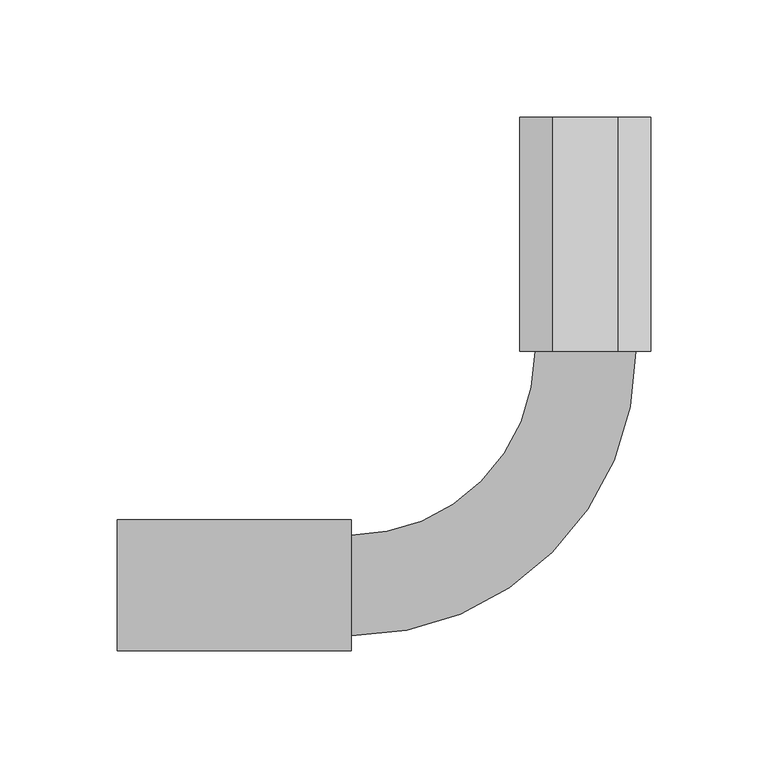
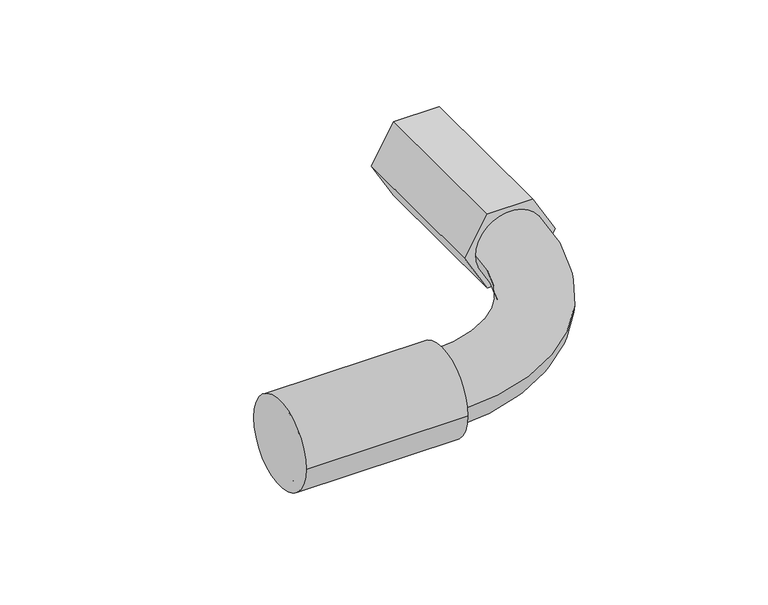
"""IFC4 building model written with IfcOpenShell, lengths in millimetres: cable carrier fitting geometry, Муфта_гибкая_труба-труба_IP44 : Муфта гибкая труба-труба D40мм."""

import ifcopenshell
import ifcopenshell.guid

model = None  # the IFC model being written
_history = None  # IfcOwnerHistory: only IFC2X3 demands one
_inside = {}  # id of a spatial element -> (the spatial element, [elements in it])
_under = {}  # id of a project, library or spatial element -> (it, [spatial elements below it])
_declared = {}  # id of a project -> (the project, [libraries it declares])
_typed = {}  # id of a type object -> (the type object, [elements of that type])
_made_of = {}  # id of a material, layer set ... -> (it, [elements and type objects made of it])


def new_model(schema):
    """Start an empty IFC model of exactly this schema.

    Asked for "IFC4X3", IfcOpenShell would pick the latest addendum, in which some entities
    have other attributes; the version numbers below select the first issue.
    IFC2X3 requires an IfcOwnerHistory on every rooted entity: one is made here for all.
    """
    global model, _history
    if schema == "IFC4X3":
        model = ifcopenshell.file(schema_version=(4, 3, 0, 0))
    else:
        model = ifcopenshell.file(schema=schema)
    _inside.clear()
    _under.clear()
    _declared.clear()
    _typed.clear()
    _made_of.clear()
    _history = None
    if model.schema == "IFC2X3":
        org = make("IfcOrganization", Name="unknown")
        user = make(
            "IfcPersonAndOrganization",
            ThePerson=make("IfcPerson", FamilyName="unknown"),
            TheOrganization=org,
        )
        app = make(
            "IfcApplication",
            ApplicationDeveloper=org,
            Version="unknown",
            ApplicationFullName="unknown",
            ApplicationIdentifier="unknown",
        )
        _history = make(
            "IfcOwnerHistory",
            OwningUser=user,
            OwningApplication=app,
            ChangeAction="ADDED",
            CreationDate=0,
        )
    return model


def make(cls, **values):
    """One entity of the class cls with the attributes given. An attribute that is None is left unset."""
    return model.create_entity(
        cls, **{name: value for name, value in values.items() if value is not None}
    )


def rooted(cls, **values):
    """An entity with a GlobalId (a new one), such as an element, a storey or a relation."""
    return make(cls, GlobalId=ifcopenshell.guid.new(), OwnerHistory=_history, **values)


def si_unit(unit_type, name, prefix=None):
    """IfcSIUnit, for example si_unit("LENGTHUNIT", "METRE", prefix="MILLI")."""
    return make("IfcSIUnit", UnitType=unit_type, Prefix=prefix, Name=name)


def assignment(units):
    """IfcUnitAssignment: the units of a project."""
    return None if units is None else make("IfcUnitAssignment", Units=units)


def point(xyz):
    """IfcCartesianPoint."""
    return None if xyz is None else make("IfcCartesianPoint", Coordinates=xyz)


def direction(xyz):
    """IfcDirection."""
    return None if xyz is None else make("IfcDirection", DirectionRatios=xyz)


def frame(location, z_axis=None, x_axis=None):
    """IfcAxis2Placement3D, a coordinate frame: its origin and axes. An axis left out is left unset."""
    return make(
        "IfcAxis2Placement3D",
        Location=point(location),
        Axis=direction(z_axis),
        RefDirection=direction(x_axis),
    )


def frame_2d(location, x_axis=None):
    """IfcAxis2Placement2D, a coordinate frame in the plane: its origin and x axis."""
    return make(
        "IfcAxis2Placement2D", Location=point(location), RefDirection=direction(x_axis)
    )


def origin():
    """The frame at (0, 0, 0) with its axes left unset."""
    return frame((0.0, 0.0, 0.0))


def origin_2d():
    """The frame at (0, 0) in the plane with its x axis left unset."""
    return frame_2d((0.0, 0.0))


def place(relative_to, where):
    """IfcLocalPlacement: puts the frame where relative to a parent placement (None: the world)."""
    return make(
        "IfcLocalPlacement", PlacementRelTo=relative_to, RelativePlacement=where
    )


def context(
    kind, dimensions, precision=None, world=None, true_north=None, identifier=None
):
    """IfcGeometricRepresentationContext, for example the 3D "Model" context."""
    return make(
        "IfcGeometricRepresentationContext",
        ContextIdentifier=identifier,
        ContextType=kind,
        CoordinateSpaceDimension=dimensions,
        Precision=precision,
        WorldCoordinateSystem=world,
        TrueNorth=true_north,
    )


def project(units=None, contexts=None):
    """IfcProject with its units and contexts."""
    return rooted(
        "IfcProject",
        Name="project",
        RepresentationContexts=contexts,
        UnitsInContext=assignment(units),
    )


def spatial(cls, under=None, at=None, **own):
    """A site, building, storey or space (cls), placed at a placement, below another one or the project."""
    s = rooted(cls, ObjectPlacement=at, **own)
    if under is not None:
        _under.setdefault(under.id(), (under, []))[1].append(s)
    return s


def polyline(points):
    """IfcPolyline through the points."""
    return make("IfcPolyline", Points=[point(p) for p in points])


def circle_curve(where, radius):
    """IfcCircle in the frame where."""
    return make("IfcCircle", Position=where, Radius=radius)


def ellipse_curve(where, semi_axis1, semi_axis2):
    """IfcEllipse in the frame where."""
    return make(
        "IfcEllipse", Position=where, SemiAxis1=semi_axis1, SemiAxis2=semi_axis2
    )


def trimmed(basis, trim1, trim2, sense, master):
    """IfcTrimmedCurve: the piece of a basis curve between two trims."""
    return make(
        "IfcTrimmedCurve",
        BasisCurve=basis,
        Trim1=trim1,
        Trim2=trim2,
        SenseAgreement=sense,
        MasterRepresentation=master,
    )


def segment(curve, same_sense, transition):
    """IfcCompositeCurveSegment."""
    return make(
        "IfcCompositeCurveSegment",
        Transition=transition,
        SameSense=same_sense,
        ParentCurve=curve,
    )


def composite_curve(segments, self_intersect=None):
    """IfcCompositeCurve: segments joined end to end."""
    return make("IfcCompositeCurve", Segments=segments, SelfIntersect=self_intersect)


def outline(outer, holes=None, kind="AREA"):
    """IfcArbitraryClosedProfileDef: a profile drawn as a closed curve; with holes, ...WithVoids."""
    if holes is None:
        return make("IfcArbitraryClosedProfileDef", ProfileType=kind, OuterCurve=outer)
    return make(
        "IfcArbitraryProfileDefWithVoids",
        ProfileType=kind,
        OuterCurve=outer,
        InnerCurves=holes,
    )


def extrude(swept, where, along, depth):
    """IfcExtrudedAreaSolid: the profile swept, set in the frame where, extruded along a direction by depth."""
    return make(
        "IfcExtrudedAreaSolid",
        SweptArea=swept,
        Position=where,
        ExtrudedDirection=direction(along),
        Depth=depth,
    )


def shape(context_of_items, identifier, shape_type, items):
    """IfcShapeRepresentation: the items that make up one representation, for example the "Body"."""
    return make(
        "IfcShapeRepresentation",
        ContextOfItems=context_of_items,
        RepresentationIdentifier=identifier,
        RepresentationType=shape_type,
        Items=items,
    )


def source(mapping_origin, context_of_items, identifier, shape_type, items):
    """IfcRepresentationMap: a shape defined once, which mapped items show again and again."""
    return make(
        "IfcRepresentationMap",
        MappingOrigin=mapping_origin,
        MappedRepresentation=shape(context_of_items, identifier, shape_type, items),
    )


def transform(
    local_origin,
    x_axis=None,
    y_axis=None,
    z_axis=None,
    scale=None,
    scale2=None,
    scale3=None,
    uniform=True,
):
    """IfcCartesianTransformationOperator3D, or its non-uniform kind. x_axis, y_axis, z_axis: its Axis1, 2, 3."""
    if uniform:
        return make(
            "IfcCartesianTransformationOperator3D",
            Axis1=direction(x_axis),
            Axis2=direction(y_axis),
            LocalOrigin=point(local_origin),
            Scale=scale,
            Axis3=direction(z_axis),
        )
    return make(
        "IfcCartesianTransformationOperator3DnonUniform",
        Axis1=direction(x_axis),
        Axis2=direction(y_axis),
        LocalOrigin=point(local_origin),
        Scale=scale,
        Axis3=direction(z_axis),
        Scale2=scale2,
        Scale3=scale3,
    )


def mapped(mapping_source, mapping_target):
    """IfcMappedItem: shows the shape of a source again, moved by a transform."""
    return make(
        "IfcMappedItem", MappingSource=mapping_source, MappingTarget=mapping_target
    )


def made_of(thing, what):
    """Note that an element or type object is made of a material, layer set ...; save() writes the relation."""
    if what is not None:
        _made_of.setdefault(what.id(), (what, []))[1].append(thing)
    return thing


def element(
    cls,
    number,
    at=None,
    inside=None,
    cuts=None,
    type_object=None,
    material=None,
    context=None,
    identifier="Body",
    shape_type=None,
    held_by="IfcProductDefinitionShape",
    body=None,
    shapes=None,
    **own,
):
    """One element of the class cls, such as IfcWall. Its Tag is "e" and its number.

    at: its placement. inside: the storey or other place that contains it. cuts: it is an
    opening in that element (IfcRelVoidsElement). A single representation is given by context,
    identifier, shape_type and body (its items); several are given by shapes. held_by: the class
    of the entity that holds the representations. save() writes the other relations.
    """
    e = rooted(cls, Tag="e%d" % number, ObjectPlacement=at, **own)
    if body is not None:
        shapes = [shape(context, identifier, shape_type, body)]
    if shapes is not None:
        e.Representation = make(held_by, Representations=shapes)
    if inside is not None:
        _inside.setdefault(inside.id(), (inside, []))[1].append(e)
    if cuts is not None:
        rooted(
            "IfcRelVoidsElement", RelatingBuildingElement=cuts, RelatedOpeningElement=e
        )
    if type_object is not None:
        _typed.setdefault(type_object.id(), (type_object, []))[1].append(e)
    return made_of(e, material)


def aggregate(whole, parts):
    """IfcRelAggregates: a whole, such as a stair, and the parts it consists of."""
    return rooted("IfcRelAggregates", RelatingObject=whole, RelatedObjects=parts)


def save(model, path):
    """Write the relations noted so far, then the file.

    IfcRelAggregates (storeys below a building ...), IfcRelContainedInSpatialStructure (elements
    in a storey), IfcRelDefinesByType, IfcRelAssociatesMaterial and IfcRelDeclares: one each for
    every whole, place, type object, material and project.
    """
    for whole, parts in _under.values():
        aggregate(whole, parts)
    for where, things in _inside.values():
        rooted(
            "IfcRelContainedInSpatialStructure",
            RelatedElements=things,
            RelatingStructure=where,
        )
    for kind, things in _typed.values():
        rooted("IfcRelDefinesByType", RelatedObjects=things, RelatingType=kind)
    for what, things in _made_of.values():
        rooted("IfcRelAssociatesMaterial", RelatedObjects=things, RelatingMaterial=what)
    for by, libraries in _declared.values():
        rooted("IfcRelDeclares", RelatingContext=by, RelatedDefinitions=libraries)
    model.write(path)


def plane_surface(at):
    """IfcPlane: the flat surface through the origin of the frame at, square to its z axis."""
    return make("IfcPlane", Position=at)


def cylinder_surface(at, radius):
    """IfcCylindricalSurface: all points at the distance radius from the z axis of the frame at."""
    return make("IfcCylindricalSurface", Position=at, Radius=radius)


def revolved_surface(curve, axis_point, axis_direction):
    """IfcSurfaceOfRevolution: the curve turned about the line through axis_point along axis_direction."""
    return make(
        "IfcSurfaceOfRevolution",
        SweptCurve=make("IfcArbitraryOpenProfileDef", ProfileType="CURVE", Curve=curve),
        AxisPosition=make("IfcAxis1Placement", Location=point(axis_point), Axis=direction(axis_direction)),
    )


def advanced_brep(points, edges, surfaces, faces):
    """IfcAdvancedBrep: a solid bounded by faces that lie on surfaces and meet in shared edges.

    An edge is (start, end): straight between two places in points (the first is 0);
    or (start, end, curve); or (start, end, curve, False) where it runs against its curve.
    A face is (place in surfaces, loops), or (place, loops, False) where it looks against
    its surface's normal. A loop lists edges by number (the first is 1), with a minus sign
    where the edge is run from its end to its start. The first loop is the outer one.
    """
    corners = [point(p) for p in points]
    vertices = [make("IfcVertexPoint", VertexGeometry=c) for c in corners]
    made = []
    for start, end, *more in edges:
        made.append(
            make(
                "IfcEdgeCurve",
                EdgeStart=vertices[start],
                EdgeEnd=vertices[end],
                EdgeGeometry=more[0] if more else make("IfcPolyline", Points=[corners[start], corners[end]]),
                SameSense=more[1] if len(more) > 1 else True,
            )
        )
    hull = []
    for where, loops, *sense in faces:
        bounds = []
        for j, loop in enumerate(loops):
            ring = [make("IfcOrientedEdge", EdgeElement=made[abs(k) - 1], Orientation=k > 0) for k in loop]
            bounds.append(
                make(
                    "IfcFaceOuterBound" if j == 0 else "IfcFaceBound",
                    Bound=make("IfcEdgeLoop", EdgeList=ring),
                    Orientation=True,
                )
            )
        hull.append(make("IfcAdvancedFace", Bounds=bounds, FaceSurface=surfaces[where], SameSense=sense[0] if sense else True))
    return make("IfcAdvancedBrep", Outer=make("IfcClosedShell", CfsFaces=hull))


def cable_carrier_fitting_3510dfeb(model_context):
    return source(origin(), model_context, "Body", "SolidModel", [
        extrude(outline(composite_curve([segment(trimmed(circle_curve(origin_2d(), 28.0), [point((-28.0, 0.0))], [point((28.0, 0.0))], False, "CARTESIAN"), True, "CONTINUOUS"), segment(trimmed(circle_curve(origin_2d(), 28.0), [point((28.0, 0.0))], [point((-28.0, 0.0))], False, "CARTESIAN"), True, "CONTINUOUS")], self_intersect=False)), frame((-200.0, 0.0, 0.0), z_axis=(1.0, 0.0, 0.0), x_axis=(0.0, 1.0, 0.0)), (0.0, 0.0, 1.0), 100.0),
        extrude(outline(polyline([(-24.2487113, 14.0), (0.0, 28.0), (24.2487113, 14.0), (24.2487113, -14.0), (0.0, -28.0), (-24.2487113, -14.0), (-24.2487113, 14.0)])), frame((0.0, 100.0, 0.0), z_axis=(0.0, 1.0, 0.0), x_axis=(0.0, 0.0, 1.0)), (0.0, 0.0, 1.0), 100.0),
        advanced_brep(
        [(-200.0, -21.5, 0.0), (-200.0, 21.5, 0.0), (-100.0, -21.5, 0.0), (-100.0, 21.5, 0.0), (-21.5, 100.0, 0.0), (21.5, 100.0, 0.0), (21.5, 200.0, 0.0), (-21.5, 200.0, 0.0)],
        [
            (0, 1, circle_curve(frame((-200.0, 0.0, 0.0), z_axis=(-1.0, 0.0, 0.0), x_axis=(0.0, 1.0, 0.0)), 21.5)),
            (1, 0, circle_curve(frame((-200.0, 0.0, 0.0), z_axis=(-1.0, 0.0, 0.0), x_axis=(0.0, 1.0, 0.0)), 21.5)),
            (0, 2),
            (2, 3, circle_curve(frame((-100.0, 0.0, 0.0), z_axis=(-1.0, 0.0, 0.0), x_axis=(0.0, 1.0, 0.0)), 21.5)),
            (3, 1),
            (3, 2, circle_curve(frame((-100.0, 0.0, 0.0), z_axis=(-1.0, 0.0, 0.0), x_axis=(0.0, 1.0, 0.0)), 21.5)),
            (4, 3, circle_curve(frame((-100.0, 100.0, 0.0), z_axis=(0.0, 0.0, -1.0), x_axis=(0.0, -1.0, 0.0)), 78.5)),
            (2, 5, circle_curve(frame((-100.0, 100.0, 0.0), z_axis=(0.0, 0.0, 1.0), x_axis=(0.0, -1.0, 0.0)), 121.5)),
            (5, 4, circle_curve(frame((0.0, 100.0, 0.0), z_axis=(0.0, -1.0, 0.0), x_axis=(-1.0, 0.0, 0.0)), 21.5)),
            (4, 5, circle_curve(frame((0.0, 100.0, 0.0), z_axis=(0.0, -1.0, 0.0), x_axis=(-1.0, 0.0, 0.0)), 21.5)),
            (6, 7, circle_curve(frame((0.0, 200.0, 0.0), z_axis=(0.0, 1.0, 0.0), x_axis=(-1.0, 0.0, 0.0)), 21.5)),
            (7, 6, circle_curve(frame((0.0, 200.0, 0.0), z_axis=(0.0, 1.0, 0.0), x_axis=(-1.0, 0.0, 0.0)), 21.5)),
            (5, 6),
            (7, 4),
        ],
        [
            plane_surface(frame((-200.0, 0.0, 0.0), z_axis=(-1.0, 0.0, 0.0), x_axis=(0.0, 0.0, 1.0))),
            cylinder_surface(frame((-200.0, 0.0, 0.0), z_axis=(-1.0, 0.0, 0.0), x_axis=(0.0, 1.0, 0.0)), 21.5),
            revolved_surface(trimmed(ellipse_curve(frame((-100.0, 0.0, 0.0), z_axis=(-1.0, 0.0, 0.0), x_axis=(0.0, 1.0, 0.0)), 21.5, 21.5), [point((-100.0, -21.5, 0.0))], [point((-100.0, 21.5, 0.0))], True, "CARTESIAN"), (-100.0, 100.0, 0.0), (0.0, 0.0, 1.0)),
            revolved_surface(trimmed(ellipse_curve(frame((-100.0, 0.0, 0.0), z_axis=(-1.0, 0.0, 0.0), x_axis=(0.0, 1.0, 0.0)), 21.5, 21.5), [point((-100.0, 21.5, 0.0))], [point((-100.0, -21.5, 0.0))], True, "CARTESIAN"), (-100.0, 100.0, 0.0), (0.0, 0.0, 1.0)),
            plane_surface(frame((0.0, 200.0, 0.0), z_axis=(0.0, 1.0, 0.0), x_axis=(0.0, 0.0, 1.0))),
            cylinder_surface(frame((0.0, 100.0, 0.0), z_axis=(0.0, -1.0, 0.0), x_axis=(-1.0, 0.0, 0.0)), 21.5),
        ],
        [
            (0, [[1, 2]]),
            (1, [[-1, 3, 4, 5]]),
            (1, [[-2, -5, 6, -3]]),
            (2, [[7, -4, 8, 9]]),
            (3, [[-8, -6, -7, 10]]),
            (4, [[11, 12]]),
            (5, [[-9, 13, -12, 14]]),
            (5, [[-10, -14, -11, -13]]),
        ],
    ),
    ])


if __name__ == "__main__":
    model = new_model("IFC4")
    model_context = context("Model", 3, world=origin())
    ifc_project = project(units=[si_unit("LENGTHUNIT", "METRE", prefix="MILLI")], contexts=[model_context])
    site = spatial("IfcSite", under=ifc_project)
    building = spatial("IfcBuilding", under=site)
    placement = place(None, origin())
    cable_carrier_fitting_shape = cable_carrier_fitting_3510dfeb(model_context)
    element("IfcCableCarrierFitting", 1, ObjectType="Муфта_гибкая_труба-труба_IP44 : Муфта гибкая труба-труба D40мм", at=placement, inside=building, context=model_context, shape_type="MappedRepresentation", body=[
        mapped(cable_carrier_fitting_shape, transform((0.0, 0.0, 0.0), x_axis=(1.0, 0.0, 0.0), y_axis=(0.0, 1.0, 0.0), z_axis=(0.0, 0.0, 1.0))),
    ])
    save(model, "model.ifc")
